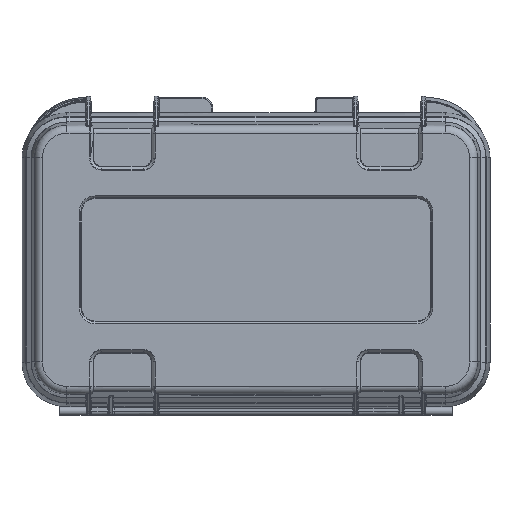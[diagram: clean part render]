
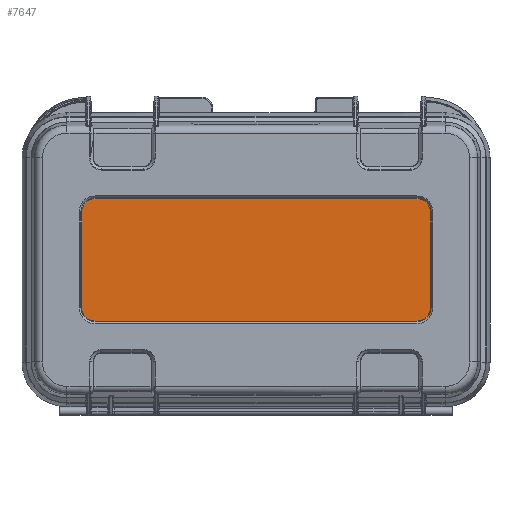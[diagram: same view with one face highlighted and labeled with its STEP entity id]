
A CAD part, top view. The second image highlights one B-rep face of the part: STEP entity #7647.
In plain terms, the highlighted planar face has unit normal (0, 0, 1).
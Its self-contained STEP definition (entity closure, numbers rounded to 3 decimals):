
#5047=CIRCLE('',#53512,12.586);
#5048=CIRCLE('',#53513,12.586);
#5049=CIRCLE('',#53514,12.586);
#5050=CIRCLE('',#53515,12.586);
#7647=ADVANCED_FACE('',(#11513),#9332,.F.);
#9332=PLANE('',#53516);
#11513=FACE_OUTER_BOUND('',#14734,.T.);
#14734=EDGE_LOOP('',(#27007,#27008,#27009,#27010,#27011,#27012,#27013,#27014));
#27007=ORIENTED_EDGE('',*,*,#42527,.T.);
#27008=ORIENTED_EDGE('',*,*,#42528,.F.);
#27009=ORIENTED_EDGE('',*,*,#42529,.F.);
#27010=ORIENTED_EDGE('',*,*,#42530,.F.);
#27011=ORIENTED_EDGE('',*,*,#42531,.T.);
#27012=ORIENTED_EDGE('',*,*,#42532,.T.);
#27013=ORIENTED_EDGE('',*,*,#42533,.T.);
#27014=ORIENTED_EDGE('',*,*,#42534,.T.);
#36240=VERTEX_POINT('',#100679);
#36241=VERTEX_POINT('',#100680);
#36242=VERTEX_POINT('',#100682);
#36243=VERTEX_POINT('',#100684);
#36244=VERTEX_POINT('',#100686);
#36245=VERTEX_POINT('',#100688);
#36246=VERTEX_POINT('',#100690);
#36247=VERTEX_POINT('',#100692);
#42527=EDGE_CURVE('',#36240,#36241,#46849,.T.);
#42528=EDGE_CURVE('',#36242,#36241,#5047,.T.);
#42529=EDGE_CURVE('',#36243,#36242,#46850,.T.);
#42530=EDGE_CURVE('',#36244,#36243,#5048,.T.);
#42531=EDGE_CURVE('',#36244,#36245,#46851,.T.);
#42532=EDGE_CURVE('',#36245,#36246,#5049,.T.);
#42533=EDGE_CURVE('',#36246,#36247,#46852,.T.);
#42534=EDGE_CURVE('',#36247,#36240,#5050,.T.);
#46849=LINE('',#100678,#49462);
#46850=LINE('',#100683,#49463);
#46851=LINE('',#100687,#49464);
#46852=LINE('',#100691,#49465);
#49462=VECTOR('',#63405,1.);
#49463=VECTOR('',#63408,1.);
#49464=VECTOR('',#63411,1.);
#49465=VECTOR('',#63414,1.);
#53512=AXIS2_PLACEMENT_3D('',#100681,#63406,#63407);
#53513=AXIS2_PLACEMENT_3D('',#100685,#63409,#63410);
#53514=AXIS2_PLACEMENT_3D('',#100689,#63412,#63413);
#53515=AXIS2_PLACEMENT_3D('',#100693,#63415,#63416);
#53516=AXIS2_PLACEMENT_3D('',#100694,#63417,#63418);
#63405=DIRECTION('',(1.,0.,0.));
#63406=DIRECTION('',(0.,0.,-1.));
#63407=DIRECTION('',(-1.,0.,0.));
#63408=DIRECTION('',(0.,-1.,0.));
#63409=DIRECTION('',(0.,0.,-1.));
#63410=DIRECTION('',(-1.,0.,0.));
#63411=DIRECTION('',(-1.,0.,0.));
#63412=DIRECTION('',(0.,0.,1.));
#63413=DIRECTION('',(-1.,0.,0.));
#63414=DIRECTION('',(0.,-1.,0.));
#63415=DIRECTION('',(0.,0.,1.));
#63416=DIRECTION('',(-1.,0.,0.));
#63417=DIRECTION('',(0.,0.,-1.));
#63418=DIRECTION('',(-1.,0.,0.));
#100678=CARTESIAN_POINT('',(-170.,84.664,58.5));
#100679=CARTESIAN_POINT('',(-151.264,84.664,58.5));
#100680=CARTESIAN_POINT('',(151.264,84.664,58.5));
#100681=CARTESIAN_POINT('',(151.264,97.25,58.5));
#100682=CARTESIAN_POINT('',(163.85,97.25,58.5));
#100683=CARTESIAN_POINT('',(163.85,72.25,58.5));
#100684=CARTESIAN_POINT('',(163.85,187.25,58.5));
#100685=CARTESIAN_POINT('',(151.264,187.25,58.5));
#100686=CARTESIAN_POINT('',(151.264,199.836,58.5));
#100687=CARTESIAN_POINT('',(-170.,199.836,58.5));
#100688=CARTESIAN_POINT('',(-151.264,199.836,58.5));
#100689=CARTESIAN_POINT('',(-151.264,187.25,58.5));
#100690=CARTESIAN_POINT('',(-163.85,187.25,58.5));
#100691=CARTESIAN_POINT('',(-163.85,72.25,58.5));
#100692=CARTESIAN_POINT('',(-163.85,97.25,58.5));
#100693=CARTESIAN_POINT('',(-151.264,97.25,58.5));
#100694=CARTESIAN_POINT('',(-170.,72.25,58.5));
